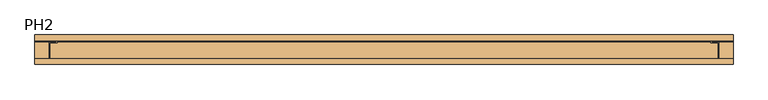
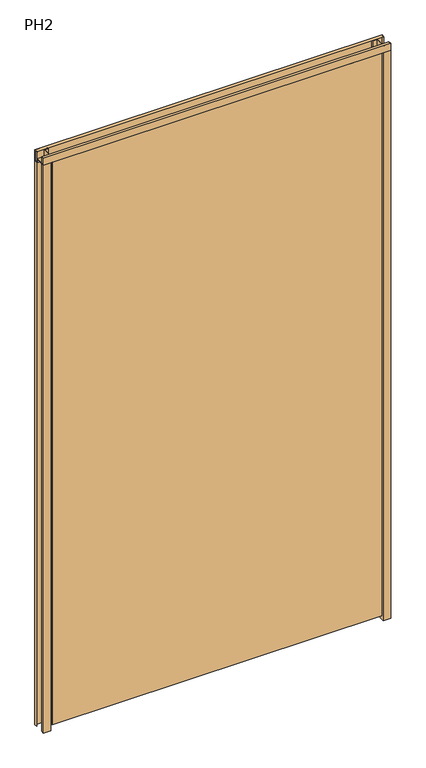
"""IFC4 building model written with IfcOpenShell, lengths in millimetres: door geometry, Puerta Metalica-lisa : PH2."""

import ifcopenshell
import ifcopenshell.guid

model = None  # the IFC model being written
_history = None  # IfcOwnerHistory: only IFC2X3 demands one
_inside = {}  # id of a spatial element -> (the spatial element, [elements in it])
_under = {}  # id of a project, library or spatial element -> (it, [spatial elements below it])
_declared = {}  # id of a project -> (the project, [libraries it declares])
_typed = {}  # id of a type object -> (the type object, [elements of that type])
_made_of = {}  # id of a material, layer set ... -> (it, [elements and type objects made of it])


def new_model(schema):
    """Start an empty IFC model of exactly this schema.

    Asked for "IFC4X3", IfcOpenShell would pick the latest addendum, in which some entities
    have other attributes; the version numbers below select the first issue.
    IFC2X3 requires an IfcOwnerHistory on every rooted entity: one is made here for all.
    """
    global model, _history
    if schema == "IFC4X3":
        model = ifcopenshell.file(schema_version=(4, 3, 0, 0))
    else:
        model = ifcopenshell.file(schema=schema)
    _inside.clear()
    _under.clear()
    _declared.clear()
    _typed.clear()
    _made_of.clear()
    _history = None
    if model.schema == "IFC2X3":
        org = make("IfcOrganization", Name="unknown")
        user = make(
            "IfcPersonAndOrganization",
            ThePerson=make("IfcPerson", FamilyName="unknown"),
            TheOrganization=org,
        )
        app = make(
            "IfcApplication",
            ApplicationDeveloper=org,
            Version="unknown",
            ApplicationFullName="unknown",
            ApplicationIdentifier="unknown",
        )
        _history = make(
            "IfcOwnerHistory",
            OwningUser=user,
            OwningApplication=app,
            ChangeAction="ADDED",
            CreationDate=0,
        )
    return model


def make(cls, **values):
    """One entity of the class cls with the attributes given. An attribute that is None is left unset."""
    return model.create_entity(
        cls, **{name: value for name, value in values.items() if value is not None}
    )


def rooted(cls, **values):
    """An entity with a GlobalId (a new one), such as an element, a storey or a relation."""
    return make(cls, GlobalId=ifcopenshell.guid.new(), OwnerHistory=_history, **values)


def si_unit(unit_type, name, prefix=None):
    """IfcSIUnit, for example si_unit("LENGTHUNIT", "METRE", prefix="MILLI")."""
    return make("IfcSIUnit", UnitType=unit_type, Prefix=prefix, Name=name)


def assignment(units):
    """IfcUnitAssignment: the units of a project."""
    return None if units is None else make("IfcUnitAssignment", Units=units)


def point(xyz):
    """IfcCartesianPoint."""
    return None if xyz is None else make("IfcCartesianPoint", Coordinates=xyz)


def direction(xyz):
    """IfcDirection."""
    return None if xyz is None else make("IfcDirection", DirectionRatios=xyz)


def frame(location, z_axis=None, x_axis=None):
    """IfcAxis2Placement3D, a coordinate frame: its origin and axes. An axis left out is left unset."""
    return make(
        "IfcAxis2Placement3D",
        Location=point(location),
        Axis=direction(z_axis),
        RefDirection=direction(x_axis),
    )


def origin():
    """The frame at (0, 0, 0) with its axes left unset."""
    return frame((0.0, 0.0, 0.0))


def origin_with_axes():
    """The frame at (0, 0, 0) with the z axis (0, 0, 1) and the x axis (1, 0, 0) written out."""
    return frame((0.0, 0.0, 0.0), z_axis=(0.0, 0.0, 1.0), x_axis=(1.0, 0.0, 0.0))


def place(relative_to, where):
    """IfcLocalPlacement: puts the frame where relative to a parent placement (None: the world)."""
    return make(
        "IfcLocalPlacement", PlacementRelTo=relative_to, RelativePlacement=where
    )


def context(
    kind, dimensions, precision=None, world=None, true_north=None, identifier=None
):
    """IfcGeometricRepresentationContext, for example the 3D "Model" context."""
    return make(
        "IfcGeometricRepresentationContext",
        ContextIdentifier=identifier,
        ContextType=kind,
        CoordinateSpaceDimension=dimensions,
        Precision=precision,
        WorldCoordinateSystem=world,
        TrueNorth=true_north,
    )


def project(units=None, contexts=None):
    """IfcProject with its units and contexts."""
    return rooted(
        "IfcProject",
        Name="project",
        RepresentationContexts=contexts,
        UnitsInContext=assignment(units),
    )


def spatial(cls, under=None, at=None, **own):
    """A site, building, storey or space (cls), placed at a placement, below another one or the project."""
    s = rooted(cls, ObjectPlacement=at, **own)
    if under is not None:
        _under.setdefault(under.id(), (under, []))[1].append(s)
    return s


def polyline(points):
    """IfcPolyline through the points."""
    return make("IfcPolyline", Points=[point(p) for p in points])


def outline(outer, holes=None, kind="AREA"):
    """IfcArbitraryClosedProfileDef: a profile drawn as a closed curve; with holes, ...WithVoids."""
    if holes is None:
        return make("IfcArbitraryClosedProfileDef", ProfileType=kind, OuterCurve=outer)
    return make(
        "IfcArbitraryProfileDefWithVoids",
        ProfileType=kind,
        OuterCurve=outer,
        InnerCurves=holes,
    )


def extrude(swept, where, along, depth):
    """IfcExtrudedAreaSolid: the profile swept, set in the frame where, extruded along a direction by depth."""
    return make(
        "IfcExtrudedAreaSolid",
        SweptArea=swept,
        Position=where,
        ExtrudedDirection=direction(along),
        Depth=depth,
    )


def shape(context_of_items, identifier, shape_type, items):
    """IfcShapeRepresentation: the items that make up one representation, for example the "Body"."""
    return make(
        "IfcShapeRepresentation",
        ContextOfItems=context_of_items,
        RepresentationIdentifier=identifier,
        RepresentationType=shape_type,
        Items=items,
    )


def source(mapping_origin, context_of_items, identifier, shape_type, items):
    """IfcRepresentationMap: a shape defined once, which mapped items show again and again."""
    return make(
        "IfcRepresentationMap",
        MappingOrigin=mapping_origin,
        MappedRepresentation=shape(context_of_items, identifier, shape_type, items),
    )


def transform(
    local_origin,
    x_axis=None,
    y_axis=None,
    z_axis=None,
    scale=None,
    scale2=None,
    scale3=None,
    uniform=True,
):
    """IfcCartesianTransformationOperator3D, or its non-uniform kind. x_axis, y_axis, z_axis: its Axis1, 2, 3."""
    if uniform:
        return make(
            "IfcCartesianTransformationOperator3D",
            Axis1=direction(x_axis),
            Axis2=direction(y_axis),
            LocalOrigin=point(local_origin),
            Scale=scale,
            Axis3=direction(z_axis),
        )
    return make(
        "IfcCartesianTransformationOperator3DnonUniform",
        Axis1=direction(x_axis),
        Axis2=direction(y_axis),
        LocalOrigin=point(local_origin),
        Scale=scale,
        Axis3=direction(z_axis),
        Scale2=scale2,
        Scale3=scale3,
    )


def mapped(mapping_source, mapping_target):
    """IfcMappedItem: shows the shape of a source again, moved by a transform."""
    return make(
        "IfcMappedItem", MappingSource=mapping_source, MappingTarget=mapping_target
    )


def made_of(thing, what):
    """Note that an element or type object is made of a material, layer set ...; save() writes the relation."""
    if what is not None:
        _made_of.setdefault(what.id(), (what, []))[1].append(thing)
    return thing


def element(
    cls,
    number,
    at=None,
    inside=None,
    cuts=None,
    type_object=None,
    material=None,
    context=None,
    identifier="Body",
    shape_type=None,
    held_by="IfcProductDefinitionShape",
    body=None,
    shapes=None,
    **own,
):
    """One element of the class cls, such as IfcWall. Its Tag is "e" and its number.

    at: its placement. inside: the storey or other place that contains it. cuts: it is an
    opening in that element (IfcRelVoidsElement). A single representation is given by context,
    identifier, shape_type and body (its items); several are given by shapes. held_by: the class
    of the entity that holds the representations. save() writes the other relations.
    """
    e = rooted(cls, Tag="e%d" % number, ObjectPlacement=at, **own)
    if body is not None:
        shapes = [shape(context, identifier, shape_type, body)]
    if shapes is not None:
        e.Representation = make(held_by, Representations=shapes)
    if inside is not None:
        _inside.setdefault(inside.id(), (inside, []))[1].append(e)
    if cuts is not None:
        rooted(
            "IfcRelVoidsElement", RelatingBuildingElement=cuts, RelatedOpeningElement=e
        )
    if type_object is not None:
        _typed.setdefault(type_object.id(), (type_object, []))[1].append(e)
    return made_of(e, material)


def aggregate(whole, parts):
    """IfcRelAggregates: a whole, such as a stair, and the parts it consists of."""
    return rooted("IfcRelAggregates", RelatingObject=whole, RelatedObjects=parts)


def save(model, path):
    """Write the relations noted so far, then the file.

    IfcRelAggregates (storeys below a building ...), IfcRelContainedInSpatialStructure (elements
    in a storey), IfcRelDefinesByType, IfcRelAssociatesMaterial and IfcRelDeclares: one each for
    every whole, place, type object, material and project.
    """
    for whole, parts in _under.values():
        aggregate(whole, parts)
    for where, things in _inside.values():
        rooted(
            "IfcRelContainedInSpatialStructure",
            RelatedElements=things,
            RelatingStructure=where,
        )
    for kind, things in _typed.values():
        rooted("IfcRelDefinesByType", RelatedObjects=things, RelatingType=kind)
    for what, things in _made_of.values():
        rooted("IfcRelAssociatesMaterial", RelatedObjects=things, RelatingMaterial=what)
    for by, libraries in _declared.values():
        rooted("IfcRelDeclares", RelatingContext=by, RelatedDefinitions=libraries)
    model.write(path)


def ph2_7709b1c7(model_context):
    return source(origin(), model_context, "Body", "SweptSolid", [
        extrude(outline(polyline([(-15.4, 2100.0), (-15.4, 2099.0), (-24.4, 2099.0), (-24.4, 2075.6), (12.6, 2075.6), (12.6, 2062.9), (24.4, 2062.9), (24.4, 2099.0), (15.4, 2099.0), (15.4, 2100.0), (25.4, 2100.0), (25.4, 2061.9), (11.6, 2061.9), (11.6, 2074.6), (-25.4, 2074.6), (-25.4, 2100.0), (-15.4, 2100.0)])), frame((-600.0, 0.0, 0.0), z_axis=(1.0, 0.0, 0.0), x_axis=(0.0, 1.0, 0.0)), (0.0, 0.0, 1.0), 1200.0),
        extrude(outline(polyline([(-538.5, -22.9), (-570.0, -22.9), (-570.0, 8.6), (-538.5, 8.6), (-538.5, -22.9)])), frame((0.0, 0.0, 20.0), z_axis=(0.0, 0.0, 1.0), x_axis=(1.0, 0.0, 0.0)), (0.0, 0.0, 1.0), 2041.9),
        extrude(outline(polyline([(538.5, -22.9), (538.5, 8.6), (570.0, 8.6), (570.0, -22.9), (538.5, -22.9)])), frame((0.0, 0.0, 20.0), z_axis=(0.0, 0.0, 1.0), x_axis=(1.0, 0.0, 0.0)), (0.0, 0.0, 1.0), 2041.9),
        extrude(outline(polyline([(570.0, -25.4), (-570.0, -25.4), (-570.0, -22.9), (570.0, -22.9), (570.0, -25.4)])), frame((0.0, 0.0, 20.0), z_axis=(0.0, 0.0, 1.0), x_axis=(1.0, 0.0, 0.0)), (0.0, 0.0, 1.0), 2054.6),
        extrude(outline(polyline([(-570.0, 11.1), (570.0, 11.1), (570.0, 8.6), (-570.0, 8.6), (-570.0, 11.1)])), frame((0.0, 0.0, 20.0), z_axis=(0.0, 0.0, 1.0), x_axis=(1.0, 0.0, 0.0)), (0.0, 0.0, 1.0), 2054.6),
        extrude(outline(polyline([(-600.0, -15.4), (-599.0, -15.4), (-599.0, -24.4), (-575.6, -24.4), (-575.6, 12.6), (-562.9, 12.6), (-562.9, 24.4), (-599.0, 24.4), (-599.0, 15.4), (-600.0, 15.4), (-600.0, 25.4), (-561.9, 25.4), (-561.9, 11.6), (-574.6, 11.6), (-574.6, -25.4), (-600.0, -25.4), (-600.0, -15.4)])), origin_with_axes(), (0.0, 0.0, 1.0), 2100.0),
        extrude(outline(polyline([(600.0, -15.4), (600.0, -25.4), (574.6, -25.4), (574.6, 11.6), (561.9, 11.6), (561.9, 25.4), (600.0, 25.4), (600.0, 15.4), (599.0, 15.4), (599.0, 24.4), (562.9, 24.4), (562.9, 12.6), (575.6, 12.6), (575.6, -24.4), (599.0, -24.4), (599.0, -15.4), (600.0, -15.4)])), origin_with_axes(), (0.0, 0.0, 1.0), 2100.0),
    ])


if __name__ == "__main__":
    model = new_model("IFC4")
    model_context = context("Model", 3, world=origin())
    ifc_project = project(units=[si_unit("LENGTHUNIT", "METRE", prefix="MILLI")], contexts=[model_context])
    site = spatial("IfcSite", under=ifc_project)
    building = spatial("IfcBuilding", under=site)
    placement = place(None, origin())
    ph2_shape = ph2_7709b1c7(model_context)
    element("IfcDoor", 1, ObjectType="Puerta Metalica-lisa : PH2", at=placement, inside=building, context=model_context, shape_type="MappedRepresentation", body=[
        mapped(ph2_shape, transform((0.0, 0.0, 0.0), x_axis=(1.0, 0.0, 0.0), y_axis=(0.0, 1.0, 0.0), z_axis=(0.0, 0.0, 1.0))),
    ])
    save(model, "model.ifc")
